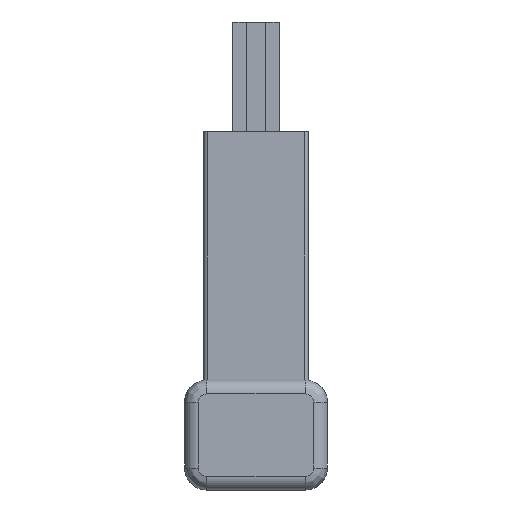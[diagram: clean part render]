
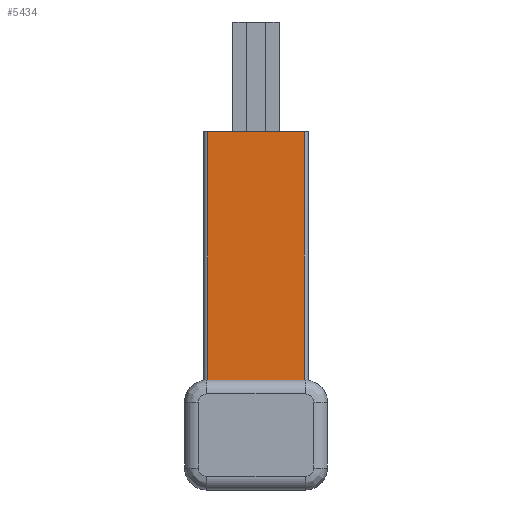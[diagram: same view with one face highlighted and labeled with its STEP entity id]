
A CAD part, front view. The second image highlights one B-rep face of the part: STEP entity #5434.
In plain terms, the highlighted planar face has unit normal (0, -1, 0).
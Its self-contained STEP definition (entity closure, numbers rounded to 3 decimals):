
#341=DIRECTION('',(1.,0.,0.));
#342=VECTOR('',#341,7.);
#343=CARTESIAN_POINT('',(-3.5,-5.85,0.));
#344=LINE('',#343,#342);
#1796=DIRECTION('',(0.,0.,-1.));
#1797=VECTOR('',#1796,18.1);
#1798=CARTESIAN_POINT('',(3.5,-5.85,0.));
#1799=LINE('',#1798,#1797);
#1800=DIRECTION('',(1.,0.,0.));
#1801=VECTOR('',#1800,7.);
#1802=CARTESIAN_POINT('',(-3.5,-5.85,-18.1));
#1803=LINE('',#1802,#1801);
#1804=DIRECTION('',(0.,0.,1.));
#1805=VECTOR('',#1804,18.1);
#1806=CARTESIAN_POINT('',(-3.5,-5.85,-18.1));
#1807=LINE('',#1806,#1805);
#3212=CARTESIAN_POINT('',(3.5,-5.85,0.));
#3213=CARTESIAN_POINT('',(3.5,-5.85,-18.1));
#3214=VERTEX_POINT('',#3212);
#3215=VERTEX_POINT('',#3213);
#3221=CARTESIAN_POINT('',(-3.5,-5.85,0.));
#3223=VERTEX_POINT('',#3221);
#3224=CARTESIAN_POINT('',(-3.5,-5.85,-18.1));
#3225=VERTEX_POINT('',#3224);
#5422=CARTESIAN_POINT('',(-3.8,-5.85,0.));
#5423=DIRECTION('',(0.,-1.,0.));
#5424=DIRECTION('',(1.,0.,0.));
#5425=AXIS2_PLACEMENT_3D('',#5422,#5423,#5424);
#5426=PLANE('',#5425);
#5428=ORIENTED_EDGE('',*,*,#5427,.T.);
#5429=ORIENTED_EDGE('',*,*,#4683,.F.);
#5430=ORIENTED_EDGE('',*,*,#5414,.T.);
#5431=ORIENTED_EDGE('',*,*,#3309,.T.);
#5432=EDGE_LOOP('',(#5428,#5429,#5430,#5431));
#5433=FACE_OUTER_BOUND('',#5432,.F.);
#3309=EDGE_CURVE('',#3223,#3214,#344,.T.);
#4683=EDGE_CURVE('',#3225,#3215,#1803,.T.);
#5414=EDGE_CURVE('',#3225,#3223,#1807,.T.);
#5427=EDGE_CURVE('',#3214,#3215,#1799,.T.);
#5434=ADVANCED_FACE('',(#5433),#5426,.T.);
